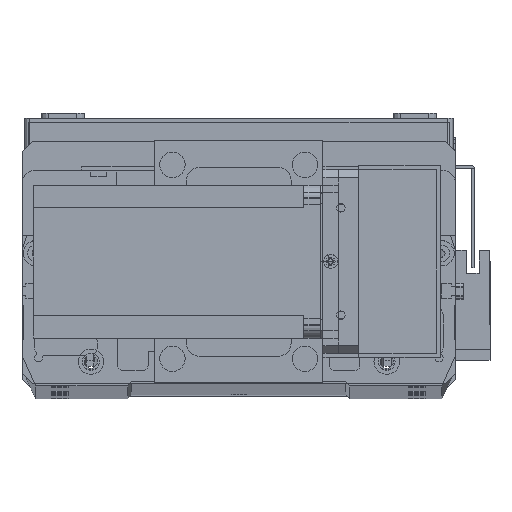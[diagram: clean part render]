
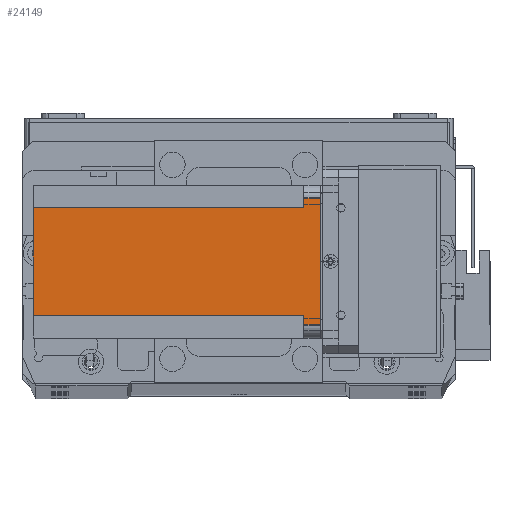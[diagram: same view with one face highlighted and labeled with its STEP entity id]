
A CAD part, top view. The second image highlights one B-rep face of the part: STEP entity #24149.
In plain terms, the highlighted planar face has unit normal (0, 0, 1) as drawn and (-1, 0, 0) by its records, which use the part's own axes.
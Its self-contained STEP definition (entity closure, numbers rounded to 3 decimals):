
#419 = CARTESIAN_POINT ( 'NONE',  ( 0., 5., -6.5 ) ) ;
#1245 = CARTESIAN_POINT ( 'NONE',  ( 0., 0., -6.5 ) ) ;
#1729 = EDGE_CURVE ( 'NONE', #20460, #10651, #18125, .T. ) ;
#1810 = LINE ( 'NONE', #1245, #28857 ) ;
#3307 = VECTOR ( 'NONE', #33004, 1000. ) ;
#3710 = FACE_OUTER_BOUND ( 'NONE', #33136, .T. ) ;
#4063 = VERTEX_POINT ( 'NONE', #8609 ) ;
#4405 = DIRECTION ( 'NONE',  ( 0., 0., -1. ) ) ;
#4523 = CARTESIAN_POINT ( 'NONE',  ( 0., 55., -112.5 ) ) ;
#5674 = LINE ( 'NONE', #4523, #26432 ) ;
#7584 = VECTOR ( 'NONE', #12078, 1000. ) ;
#7658 = VERTEX_POINT ( 'NONE', #8409 ) ;
#8117 = DIRECTION ( 'NONE',  ( 0., 0., 1. ) ) ;
#8278 = CARTESIAN_POINT ( 'NONE',  ( 0., 9., -112.5 ) ) ;
#8409 = CARTESIAN_POINT ( 'NONE',  ( 0., 9., -6.5 ) ) ;
#8609 = CARTESIAN_POINT ( 'NONE',  ( 0., 55., -6.5 ) ) ;
#8934 = LINE ( 'NONE', #31411, #28705 ) ;
#9193 = ORIENTED_EDGE ( 'NONE', *, *, #29687, .T. ) ;
#9200 = VERTEX_POINT ( 'NONE', #419 ) ;
#9837 = DIRECTION ( 'NONE',  ( 0., 0., -1. ) ) ;
#9975 = ORIENTED_EDGE ( 'NONE', *, *, #31287, .F. ) ;
#10651 = VERTEX_POINT ( 'NONE', #25993 ) ;
#10984 = CARTESIAN_POINT ( 'NONE',  ( 0., 0., 0. ) ) ;
#11253 = LINE ( 'NONE', #12528, #3307 ) ;
#11901 = VECTOR ( 'NONE', #15180, 1000. ) ;
#12078 = DIRECTION ( 'NONE',  ( 0., 1., 0. ) ) ;
#12528 = CARTESIAN_POINT ( 'NONE',  ( 0., 0., -112.5 ) ) ;
#12674 = ORIENTED_EDGE ( 'NONE', *, *, #29603, .F. ) ;
#12780 = VERTEX_POINT ( 'NONE', #28693 ) ;
#13046 = ORIENTED_EDGE ( 'NONE', *, *, #29693, .T. ) ;
#13605 = DIRECTION ( 'NONE',  ( -1., 0., 0. ) ) ;
#15090 = ORIENTED_EDGE ( 'NONE', *, *, #31387, .T. ) ;
#15180 = DIRECTION ( 'NONE',  ( 0., 0., 1. ) ) ;
#15366 = LINE ( 'NONE', #27546, #7584 ) ;
#15807 = CARTESIAN_POINT ( 'NONE',  ( 0., 55., 0. ) ) ;
#15899 = ORIENTED_EDGE ( 'NONE', *, *, #1729, .F. ) ;
#17378 = CARTESIAN_POINT ( 'NONE',  ( 0., 51., -112.5 ) ) ;
#17816 = DIRECTION ( 'NONE',  ( 0., -1., 0. ) ) ;
#18125 = LINE ( 'NONE', #10984, #32519 ) ;
#18757 = LINE ( 'NONE', #22809, #11901 ) ;
#20460 = VERTEX_POINT ( 'NONE', #15807 ) ;
#21599 = AXIS2_PLACEMENT_3D ( 'NONE', #23866, #13605, #31494 ) ;
#22481 = VERTEX_POINT ( 'NONE', #8278 ) ;
#22809 = CARTESIAN_POINT ( 'NONE',  ( 0., 5., -112.5 ) ) ;
#23197 = ORIENTED_EDGE ( 'NONE', *, *, #31349, .F. ) ;
#23866 = CARTESIAN_POINT ( 'NONE',  ( 0., 0., -112.5 ) ) ;
#24149 = ADVANCED_FACE ( 'NONE', ( #3710 ), #29013, .T. ) ;
#24348 = ORIENTED_EDGE ( 'NONE', *, *, #30382, .F. ) ;
#25005 = VECTOR ( 'NONE', #4405, 1000. ) ;
#25276 = CARTESIAN_POINT ( 'NONE',  ( 0., 9., -112.5 ) ) ;
#25993 = CARTESIAN_POINT ( 'NONE',  ( 0., 5., 0. ) ) ;
#26432 = VECTOR ( 'NONE', #9837, 1000. ) ;
#27449 = DIRECTION ( 'NONE',  ( 0., 1., 0. ) ) ;
#27546 = CARTESIAN_POINT ( 'NONE',  ( 0., 60., -6.5 ) ) ;
#28693 = CARTESIAN_POINT ( 'NONE',  ( 0., 51., -6.5 ) ) ;
#28705 = VECTOR ( 'NONE', #8117, 1000. ) ;
#28857 = VECTOR ( 'NONE', #27449, 1000. ) ;
#29013 = PLANE ( 'NONE',  #21599 ) ;
#29603 = EDGE_CURVE ( 'NONE', #9200, #7658, #1810, .T. ) ;
#29687 = EDGE_CURVE ( 'NONE', #20460, #4063, #5674, .T. ) ;
#29693 = EDGE_CURVE ( 'NONE', #9200, #10651, #18757, .T. ) ;
#30382 = EDGE_CURVE ( 'NONE', #32808, #12780, #8934, .T. ) ;
#31287 = EDGE_CURVE ( 'NONE', #12780, #4063, #15366, .T. ) ;
#31349 = EDGE_CURVE ( 'NONE', #7658, #22481, #32528, .T. ) ;
#31387 = EDGE_CURVE ( 'NONE', #32808, #22481, #11253, .T. ) ;
#31411 = CARTESIAN_POINT ( 'NONE',  ( 0., 51., -112.5 ) ) ;
#31494 = DIRECTION ( 'NONE',  ( 0., -1., 0. ) ) ;
#32519 = VECTOR ( 'NONE', #17816, 1000. ) ;
#32528 = LINE ( 'NONE', #25276, #25005 ) ;
#32808 = VERTEX_POINT ( 'NONE', #17378 ) ;
#33004 = DIRECTION ( 'NONE',  ( 0., -1., 0. ) ) ;
#33136 = EDGE_LOOP ( 'NONE', ( #12674, #13046, #15899, #9193, #9975, #24348, #15090, #23197 ) ) ;
